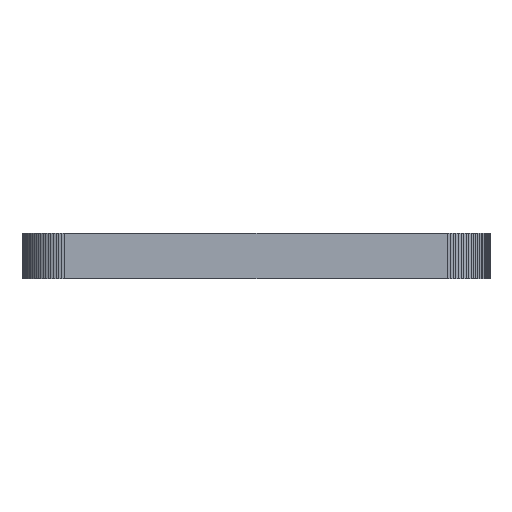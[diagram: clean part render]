
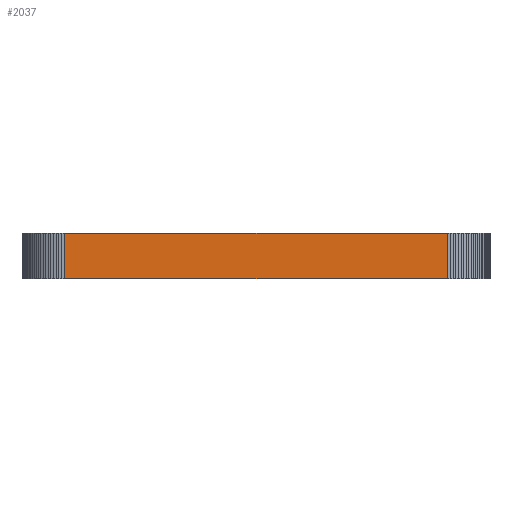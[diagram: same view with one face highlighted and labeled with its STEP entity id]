
A CAD part, left-side view. The second image highlights one B-rep face of the part: STEP entity #2037.
In plain terms, the highlighted planar face has unit normal (-1, 0, 0).
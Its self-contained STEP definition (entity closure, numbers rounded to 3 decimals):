
#72 = PLANE('',#73);
#73 = AXIS2_PLACEMENT_3D('',#74,#75,#76);
#74 = CARTESIAN_POINT('',(17.725,8.25,5.6));
#75 = DIRECTION('',(-0.,0.,-1.));
#76 = DIRECTION('',(1.,0.,0.));
#126 = PLANE('',#127);
#127 = AXIS2_PLACEMENT_3D('',#128,#129,#130);
#128 = CARTESIAN_POINT('',(17.725,8.25,4.));
#129 = DIRECTION('',(-0.,0.,-1.));
#130 = DIRECTION('',(1.,0.,0.));
#1929 = PLANE('',#1930);
#1930 = AXIS2_PLACEMENT_3D('',#1931,#1932,#1933);
#1931 = CARTESIAN_POINT('',(0.003,15.098,4.));
#1932 = DIRECTION('',(-0.999,0.033,0.));
#1933 = DIRECTION('',(0.033,0.999,0.));
#1967 = VERTEX_POINT('',#1968);
#1968 = CARTESIAN_POINT('',(0.,15.,5.6));
#1989 = EDGE_CURVE('',#1990,#1967,#1992,.T.);
#1990 = VERTEX_POINT('',#1991);
#1991 = CARTESIAN_POINT('',(0.,15.,4.));
#1992 = SURFACE_CURVE('',#1993,(#1997,#2004),.PCURVE_S1.);
#1993 = LINE('',#1994,#1995);
#1994 = CARTESIAN_POINT('',(0.,15.,4.));
#1995 = VECTOR('',#1996,1.);
#1996 = DIRECTION('',(-0.,-0.,1.));
#1997 = PCURVE('',#1929,#1998);
#1998 = DEFINITIONAL_REPRESENTATION('',(#1999),#2003);
#1999 = LINE('',#2000,#2001);
#2000 = CARTESIAN_POINT('',(-0.098,0.));
#2001 = VECTOR('',#2002,1.);
#2002 = DIRECTION('',(-0.,-1.));
#2003 = ( GEOMETRIC_REPRESENTATION_CONTEXT(2) 
PARAMETRIC_REPRESENTATION_CONTEXT() REPRESENTATION_CONTEXT('2D SPACE',''
  ) );
#2004 = PCURVE('',#2005,#2010);
#2005 = PLANE('',#2006);
#2006 = AXIS2_PLACEMENT_3D('',#2007,#2008,#2009);
#2007 = CARTESIAN_POINT('',(0.,15.,4.));
#2008 = DIRECTION('',(-1.,-0.,-0.));
#2009 = DIRECTION('',(0.,1.,0.));
#2010 = DEFINITIONAL_REPRESENTATION('',(#2011),#2015);
#2011 = LINE('',#2012,#2013);
#2012 = CARTESIAN_POINT('',(-0.,-0.));
#2013 = VECTOR('',#2014,1.);
#2014 = DIRECTION('',(-0.,-1.));
#2015 = ( GEOMETRIC_REPRESENTATION_CONTEXT(2) 
PARAMETRIC_REPRESENTATION_CONTEXT() REPRESENTATION_CONTEXT('2D SPACE',''
  ) );
#2037 = ADVANCED_FACE('',(#2038),#2005,.T.);
#2038 = FACE_BOUND('',#2039,.F.);
#2039 = EDGE_LOOP('',(#2040,#2041,#2064,#2092));
#2040 = ORIENTED_EDGE('',*,*,#1989,.T.);
#2041 = ORIENTED_EDGE('',*,*,#2042,.T.);
#2042 = EDGE_CURVE('',#1967,#2043,#2045,.T.);
#2043 = VERTEX_POINT('',#2044);
#2044 = CARTESIAN_POINT('',(0.,1.5,5.6));
#2045 = SURFACE_CURVE('',#2046,(#2050,#2057),.PCURVE_S1.);
#2046 = LINE('',#2047,#2048);
#2047 = CARTESIAN_POINT('',(0.,15.,5.6));
#2048 = VECTOR('',#2049,1.);
#2049 = DIRECTION('',(-0.,-1.,-0.));
#2050 = PCURVE('',#2005,#2051);
#2051 = DEFINITIONAL_REPRESENTATION('',(#2052),#2056);
#2052 = LINE('',#2053,#2054);
#2053 = CARTESIAN_POINT('',(-0.,-1.6));
#2054 = VECTOR('',#2055,1.);
#2055 = DIRECTION('',(-1.,0.));
#2056 = ( GEOMETRIC_REPRESENTATION_CONTEXT(2) 
PARAMETRIC_REPRESENTATION_CONTEXT() REPRESENTATION_CONTEXT('2D SPACE',''
  ) );
#2057 = PCURVE('',#72,#2058);
#2058 = DEFINITIONAL_REPRESENTATION('',(#2059),#2063);
#2059 = LINE('',#2060,#2061);
#2060 = CARTESIAN_POINT('',(-17.725,-6.75));
#2061 = VECTOR('',#2062,1.);
#2062 = DIRECTION('',(-0.,1.));
#2063 = ( GEOMETRIC_REPRESENTATION_CONTEXT(2) 
PARAMETRIC_REPRESENTATION_CONTEXT() REPRESENTATION_CONTEXT('2D SPACE',''
  ) );
#2064 = ORIENTED_EDGE('',*,*,#2065,.F.);
#2065 = EDGE_CURVE('',#2066,#2043,#2068,.T.);
#2066 = VERTEX_POINT('',#2067);
#2067 = CARTESIAN_POINT('',(0.,1.5,4.));
#2068 = SURFACE_CURVE('',#2069,(#2073,#2080),.PCURVE_S1.);
#2069 = LINE('',#2070,#2071);
#2070 = CARTESIAN_POINT('',(0.,1.5,4.));
#2071 = VECTOR('',#2072,1.);
#2072 = DIRECTION('',(-0.,-0.,1.));
#2073 = PCURVE('',#2005,#2074);
#2074 = DEFINITIONAL_REPRESENTATION('',(#2075),#2079);
#2075 = LINE('',#2076,#2077);
#2076 = CARTESIAN_POINT('',(-13.5,0.));
#2077 = VECTOR('',#2078,1.);
#2078 = DIRECTION('',(-0.,-1.));
#2079 = ( GEOMETRIC_REPRESENTATION_CONTEXT(2) 
PARAMETRIC_REPRESENTATION_CONTEXT() REPRESENTATION_CONTEXT('2D SPACE',''
  ) );
#2080 = PCURVE('',#2081,#2086);
#2081 = PLANE('',#2082);
#2082 = AXIS2_PLACEMENT_3D('',#2083,#2084,#2085);
#2083 = CARTESIAN_POINT('',(0.,1.5,4.));
#2084 = DIRECTION('',(-0.999,-0.033,-0.));
#2085 = DIRECTION('',(-0.033,0.999,0.));
#2086 = DEFINITIONAL_REPRESENTATION('',(#2087),#2091);
#2087 = LINE('',#2088,#2089);
#2088 = CARTESIAN_POINT('',(-0.,-0.));
#2089 = VECTOR('',#2090,1.);
#2090 = DIRECTION('',(-0.,-1.));
#2091 = ( GEOMETRIC_REPRESENTATION_CONTEXT(2) 
PARAMETRIC_REPRESENTATION_CONTEXT() REPRESENTATION_CONTEXT('2D SPACE',''
  ) );
#2092 = ORIENTED_EDGE('',*,*,#2093,.F.);
#2093 = EDGE_CURVE('',#1990,#2066,#2094,.T.);
#2094 = SURFACE_CURVE('',#2095,(#2099,#2106),.PCURVE_S1.);
#2095 = LINE('',#2096,#2097);
#2096 = CARTESIAN_POINT('',(0.,15.,4.));
#2097 = VECTOR('',#2098,1.);
#2098 = DIRECTION('',(-0.,-1.,-0.));
#2099 = PCURVE('',#2005,#2100);
#2100 = DEFINITIONAL_REPRESENTATION('',(#2101),#2105);
#2101 = LINE('',#2102,#2103);
#2102 = CARTESIAN_POINT('',(-0.,-0.));
#2103 = VECTOR('',#2104,1.);
#2104 = DIRECTION('',(-1.,0.));
#2105 = ( GEOMETRIC_REPRESENTATION_CONTEXT(2) 
PARAMETRIC_REPRESENTATION_CONTEXT() REPRESENTATION_CONTEXT('2D SPACE',''
  ) );
#2106 = PCURVE('',#126,#2107);
#2107 = DEFINITIONAL_REPRESENTATION('',(#2108),#2112);
#2108 = LINE('',#2109,#2110);
#2109 = CARTESIAN_POINT('',(-17.725,-6.75));
#2110 = VECTOR('',#2111,1.);
#2111 = DIRECTION('',(-0.,1.));
#2112 = ( GEOMETRIC_REPRESENTATION_CONTEXT(2) 
PARAMETRIC_REPRESENTATION_CONTEXT() REPRESENTATION_CONTEXT('2D SPACE',''
  ) );
